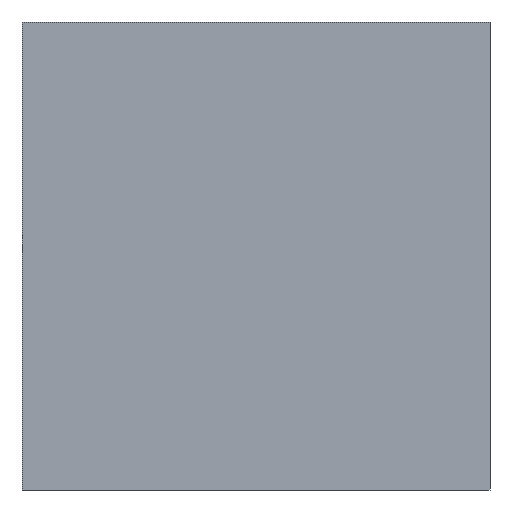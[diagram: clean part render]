
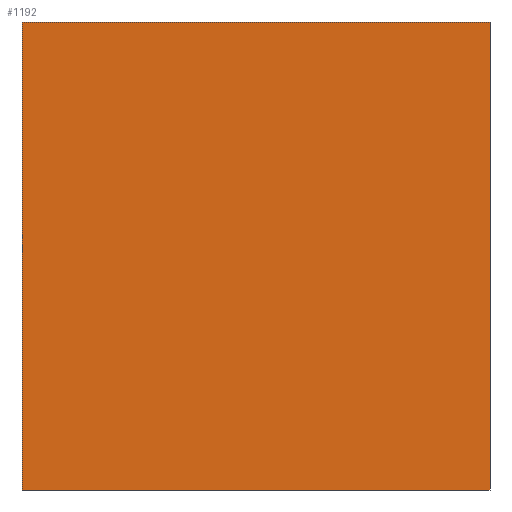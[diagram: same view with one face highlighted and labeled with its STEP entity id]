
A CAD part, front view. The second image highlights one B-rep face of the part: STEP entity #1192.
In plain terms, the highlighted planar face has unit normal (0, -1, 0).
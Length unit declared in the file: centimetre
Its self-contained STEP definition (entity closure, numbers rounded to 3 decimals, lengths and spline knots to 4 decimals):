
#47 = ORIENTED_EDGE ( 'NONE', *, *, #427, .F. ) ;
#125 = CARTESIAN_POINT ( 'NONE',  ( 0., 0., 1000. ) ) ;
#154 = CARTESIAN_POINT ( 'NONE',  ( 0., 0., 0. ) ) ;
#177 = PLANE ( 'NONE',  #1225 ) ;
#192 = DIRECTION ( 'NONE',  ( 0., 0., 1. ) ) ;
#212 = CARTESIAN_POINT ( 'NONE',  ( 1000., 0., 1000. ) ) ;
#228 = ORIENTED_EDGE ( 'NONE', *, *, #513, .F. ) ;
#276 = DIRECTION ( 'NONE',  ( 0., 1., 0. ) ) ;
#298 = CARTESIAN_POINT ( 'NONE',  ( 1000., 0., 1000. ) ) ;
#374 = ORIENTED_EDGE ( 'NONE', *, *, #1078, .T. ) ;
#383 = LINE ( 'NONE', #298, #453 ) ;
#427 = EDGE_CURVE ( 'NONE', #565, #884, #383, .T. ) ;
#453 = VECTOR ( 'NONE', #1053, 100. ) ;
#511 = LINE ( 'NONE', #1182, #886 ) ;
#513 = EDGE_CURVE ( 'NONE', #963, #565, #760, .T. ) ;
#531 = DIRECTION ( 'NONE',  ( 1., 0., 0. ) ) ;
#540 = CARTESIAN_POINT ( 'NONE',  ( 0., 0., 0. ) ) ;
#555 = CARTESIAN_POINT ( 'NONE',  ( 0., 0., 1000. ) ) ;
#565 = VERTEX_POINT ( 'NONE', #212 ) ;
#587 = CARTESIAN_POINT ( 'NONE',  ( 1000., 0., 0. ) ) ;
#641 = ORIENTED_EDGE ( 'NONE', *, *, #983, .T. ) ;
#760 = LINE ( 'NONE', #125, #928 ) ;
#793 = CARTESIAN_POINT ( 'NONE',  ( 0., 0., 1000. ) ) ;
#809 = VERTEX_POINT ( 'NONE', #540 ) ;
#884 = VERTEX_POINT ( 'NONE', #587 ) ;
#885 = DIRECTION ( 'NONE',  ( 0., 0., -1. ) ) ;
#886 = VECTOR ( 'NONE', #885, 100. ) ;
#928 = VECTOR ( 'NONE', #975, 100. ) ;
#952 = VECTOR ( 'NONE', #531, 100. ) ;
#963 = VERTEX_POINT ( 'NONE', #793 ) ;
#975 = DIRECTION ( 'NONE',  ( 1., 0., 0. ) ) ;
#983 = EDGE_CURVE ( 'NONE', #963, #809, #511, .T. ) ;
#1053 = DIRECTION ( 'NONE',  ( 0., 0., -1. ) ) ;
#1078 = EDGE_CURVE ( 'NONE', #809, #884, #1095, .T. ) ;
#1095 = LINE ( 'NONE', #154, #952 ) ;
#1178 = EDGE_LOOP ( 'NONE', ( #374, #47, #228, #641 ) ) ;
#1182 = CARTESIAN_POINT ( 'NONE',  ( 0., 0., 1000. ) ) ;
#1192 = ADVANCED_FACE ( 'NONE', ( #1219 ), #177, .F. ) ;
#1219 = FACE_OUTER_BOUND ( 'NONE', #1178, .T. ) ;
#1225 = AXIS2_PLACEMENT_3D ( 'NONE', #555, #276, #192 ) ;
